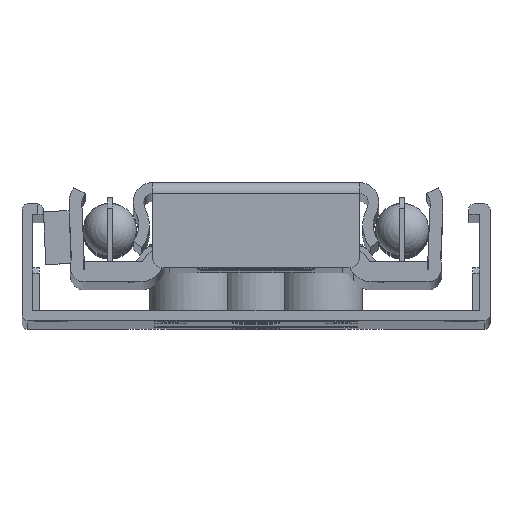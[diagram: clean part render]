
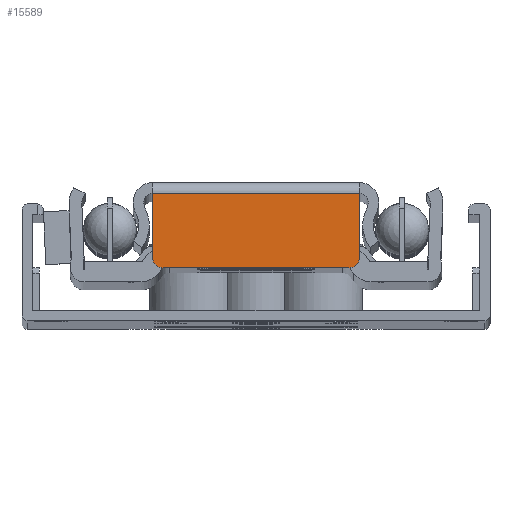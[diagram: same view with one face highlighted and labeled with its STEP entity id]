
A CAD part, top view. The second image highlights one B-rep face of the part: STEP entity #15589.
In plain terms, the highlighted planar face has unit normal (0, 0, 1).
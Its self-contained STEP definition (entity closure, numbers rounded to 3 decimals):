
#725=PLANE('',#17103);
#1492=FACE_OUTER_BOUND('',#2421,.T.);
#2421=EDGE_LOOP('',(#14383,#14384,#14385,#14386,#14387,#14388));
#3958=LINE('',#26405,#5499);
#3959=LINE('',#26408,#5500);
#3960=LINE('',#26412,#5501);
#3961=LINE('',#26415,#5502);
#5499=VECTOR('',#21531,10.);
#5500=VECTOR('',#21534,10.);
#5501=VECTOR('',#21537,10.);
#5502=VECTOR('',#21540,10.);
#6220=CIRCLE('',#17104,1.);
#6221=CIRCLE('',#17105,1.);
#7694=VERTEX_POINT('',#26401);
#7695=VERTEX_POINT('',#26403);
#7696=VERTEX_POINT('',#26407);
#7697=VERTEX_POINT('',#26409);
#7698=VERTEX_POINT('',#26411);
#7699=VERTEX_POINT('',#26413);
#9942=EDGE_CURVE('',#7695,#7694,#3958,.T.);
#9943=EDGE_CURVE('',#7695,#7696,#3959,.T.);
#9944=EDGE_CURVE('',#7697,#7696,#6220,.T.);
#9945=EDGE_CURVE('',#7697,#7698,#3960,.T.);
#9946=EDGE_CURVE('',#7699,#7698,#6221,.T.);
#9947=EDGE_CURVE('',#7694,#7699,#3961,.T.);
#14383=ORIENTED_EDGE('',*,*,#9942,.F.);
#14384=ORIENTED_EDGE('',*,*,#9943,.T.);
#14385=ORIENTED_EDGE('',*,*,#9944,.F.);
#14386=ORIENTED_EDGE('',*,*,#9945,.T.);
#14387=ORIENTED_EDGE('',*,*,#9946,.F.);
#14388=ORIENTED_EDGE('',*,*,#9947,.F.);
#15589=ADVANCED_FACE('',(#1492),#725,.T.);
#17103=AXIS2_PLACEMENT_3D('',#26406,#21532,#21533);
#17104=AXIS2_PLACEMENT_3D('',#26410,#21535,#21536);
#17105=AXIS2_PLACEMENT_3D('',#26414,#21538,#21539);
#21531=DIRECTION('',(-1.,0.,0.));
#21532=DIRECTION('center_axis',(0.,0.,1.));
#21533=DIRECTION('ref_axis',(1.,0.,0.));
#21534=DIRECTION('',(0.,1.,0.));
#21535=DIRECTION('center_axis',(0.,0.,-1.));
#21536=DIRECTION('ref_axis',(0.707,0.707,0.));
#21537=DIRECTION('',(-1.,0.,0.));
#21538=DIRECTION('center_axis',(0.,0.,-1.));
#21539=DIRECTION('ref_axis',(-0.707,0.707,0.));
#21540=DIRECTION('',(0.,1.,0.));
#26401=CARTESIAN_POINT('',(4.892,-4.95,449.));
#26403=CARTESIAN_POINT('',(24.354,-4.95,449.));
#26405=CARTESIAN_POINT('',(19.501,-4.95,449.));
#26406=CARTESIAN_POINT('Origin',(24.354,-5.95,449.));
#26407=CARTESIAN_POINT('',(24.354,1.05,449.));
#26408=CARTESIAN_POINT('',(24.354,-5.95,449.));
#26409=CARTESIAN_POINT('',(23.354,2.05,449.));
#26410=CARTESIAN_POINT('Origin',(23.354,1.05,449.));
#26411=CARTESIAN_POINT('',(5.892,2.05,449.));
#26412=CARTESIAN_POINT('',(24.354,2.05,449.));
#26413=CARTESIAN_POINT('',(4.892,1.05,449.));
#26414=CARTESIAN_POINT('Origin',(5.892,1.05,449.));
#26415=CARTESIAN_POINT('',(4.892,-5.95,449.));
